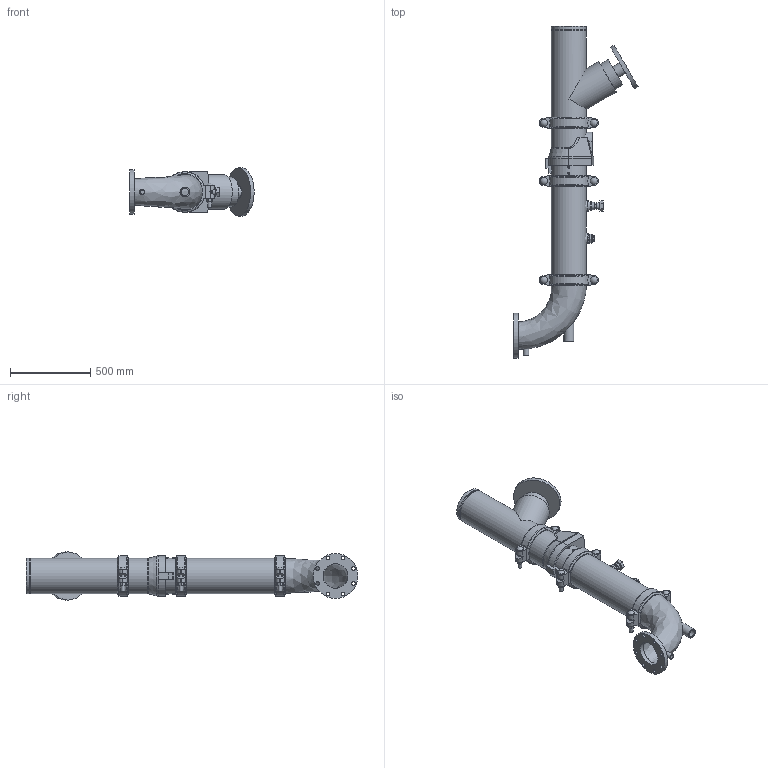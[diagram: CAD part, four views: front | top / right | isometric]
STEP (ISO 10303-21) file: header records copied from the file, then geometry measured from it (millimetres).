
FILE_DESCRIPTION(/* description */ ('VIC DVI PUMP DROP HORZ S/383 (OGSxFLG) (S/924-1.25)','CAx-IF Rec.Pracs.---Representation and Presentation of Product Manufacturing Information (PMI)---4.0---2014-10-13'),/* implementation_level */ '2;1');
FILE_NAME(/* name */ 'C:\Users\kkamble\AppData\Roaming\Autodesk\ApplicationPlugins\Victaulic.Temp\A821\CL 150_Series 383 (OGSxFLG)_924 (1.25)_08.0x06.0 (200x150).stp',/* time_stamp */ '2022-03-16T18:47:12+05:00',/* author */ ('kkamble'),/* organization */ ('Victaulic'),/* preprocessor_version */ 'ST-DEVELOPER v17.2',/* originating_system */ 'Autodesk Inventor 2019',/* authorisation */ '');
FILE_SCHEMA (('AP242_MANAGED_MODEL_BASED_3D_ENGINEERING_MIM_LF { 1 0 10303 442 1 1 4 }'));
Length unit declared in the file: inch
Products named in the file (8): 383_924 (1.25)-08.0x06.0; Pipe-08.0; 789-08.0; 177N-08.0; 779-08.0; 924-04.0x01.25; 923-04.0x0.75; R100F-08.0x06.0
Assembly tree (9 placements, depth 2):
  383_924 (1.25)-08.0x06.0
    177N-08.0  x3
    Pipe-08.0
    789-08.0
    779-08.0
    924-04.0x01.25
    923-04.0x0.75
    R100F-08.0x06.0
Bounding box: 774.7 x 2070.1 x 299.97 mm (x, y, z)
Volume: 29164107.5 mm3; surface area: 3979954.5 mm2
Topology: 9 solids, 10 shells, 531 faces, 1387 edges, 932 vertices
Faces by surface type: plane 307, cylinder 177, torus 18, cone 17, sphere 6, bspline 6
Full cylindrical faces by diameter (mm): 13.716 x4, 21.336 x1, 22.352 x8, 23.774 x6, 26.67 x3, 34.29 x1, 38.608 x1, 42.164 x1, 42.85 x6, 45.974 x4, 48.26 x1, 48.514 x1, 55.626 x2, 60.96 x1, 76.2 x1, 154.051 x1, 183.515 x1, 202.717 x4, 206.375 x3, 214.401 x7, 219.075 x18, 279.4 x1, 299.974 x1
Entity records: 12900 total; most frequent: CARTESIAN_POINT 3553, DIRECTION 1908, ORIENTED_EDGE 1754, EDGE_CURVE 877, AXIS2_PLACEMENT_3D 732, VERTEX_POINT 596, LINE 444, VECTOR 444
